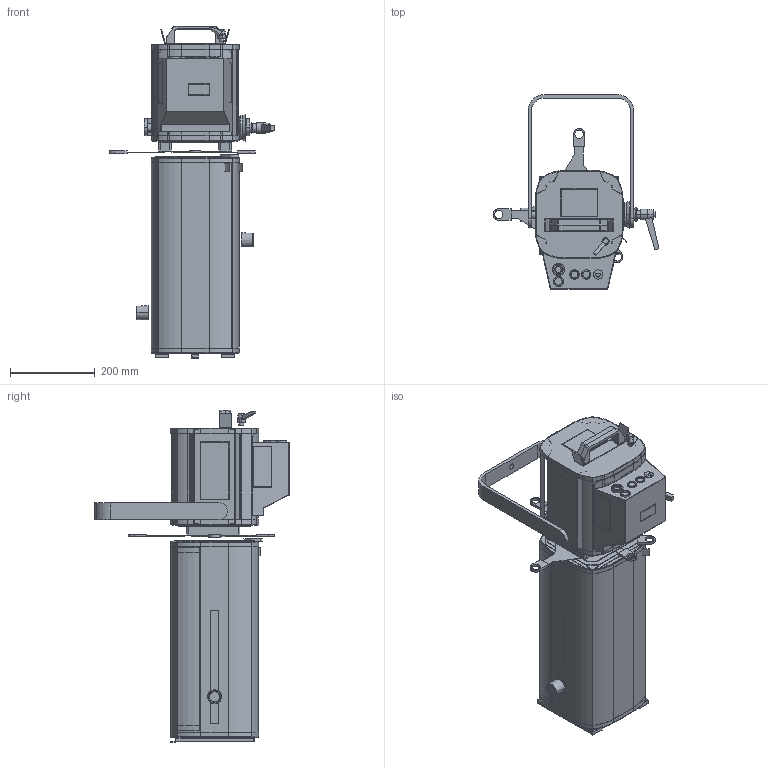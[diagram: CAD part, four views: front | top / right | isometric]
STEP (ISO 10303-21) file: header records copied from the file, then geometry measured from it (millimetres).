
FILE_DESCRIPTION (( 'STEP AP203' ), '1' );
FILE_NAME ('_CAD client__651.STEP', '2020-06-19T09:11:14', ( '' ), ( '' ), 'SwSTEP 2.0', 'SolidWorks 2019', '' );
FILE_SCHEMA (( 'CONFIG_CONTROL_DESIGN' ));
Length unit declared in the file: millimetre
Products named in the file (1): _CAD client__651
Bounding box: 391.34 x 458.85 x 782.81 mm (x, y, z)
Volume: 1495059.3 mm3; surface area: 2096085.3 mm2
Topology: 60 solids, 60 shells, 1083 faces, 2497 edges, 1562 vertices
Faces by surface type: plane 679, cylinder 333, torus 38, cone 29, bspline 4
Entity records: 30520 total; most frequent: CARTESIAN_POINT 5465, DIRECTION 5349, ORIENTED_EDGE 4994, EDGE_CURVE 2497, AXIS2_PLACEMENT_3D 1826, LINE 1697, VECTOR 1697, VERTEX_POINT 1562
